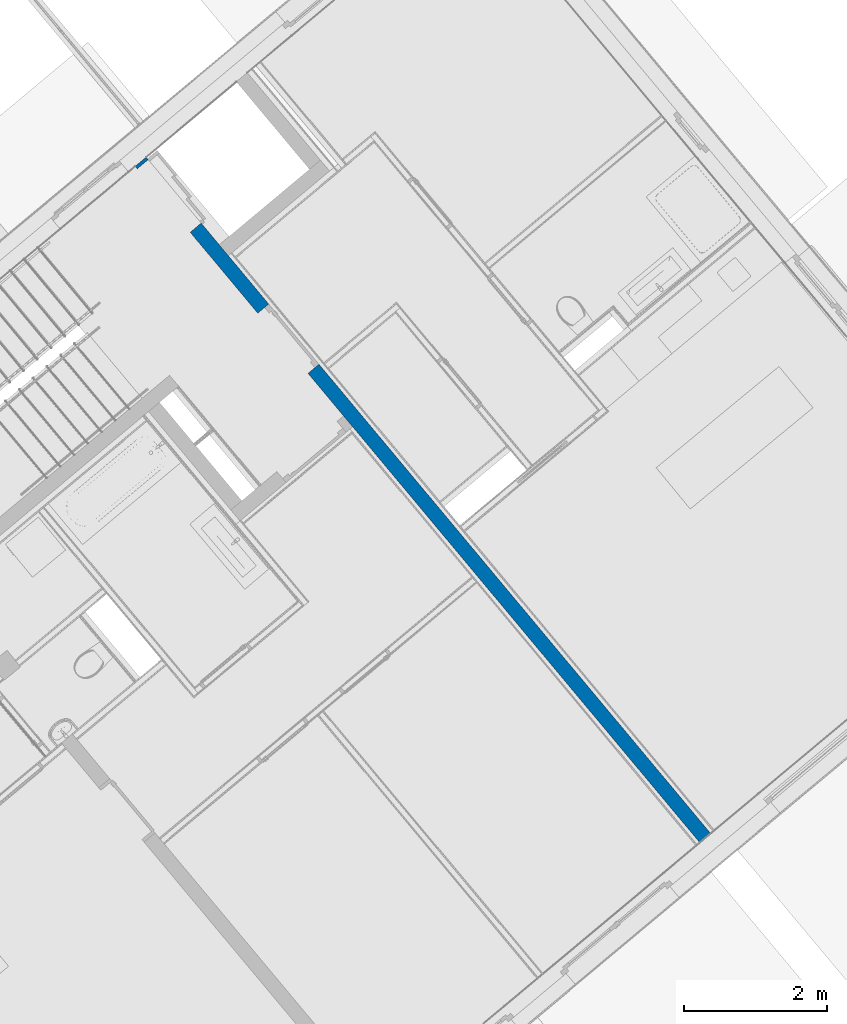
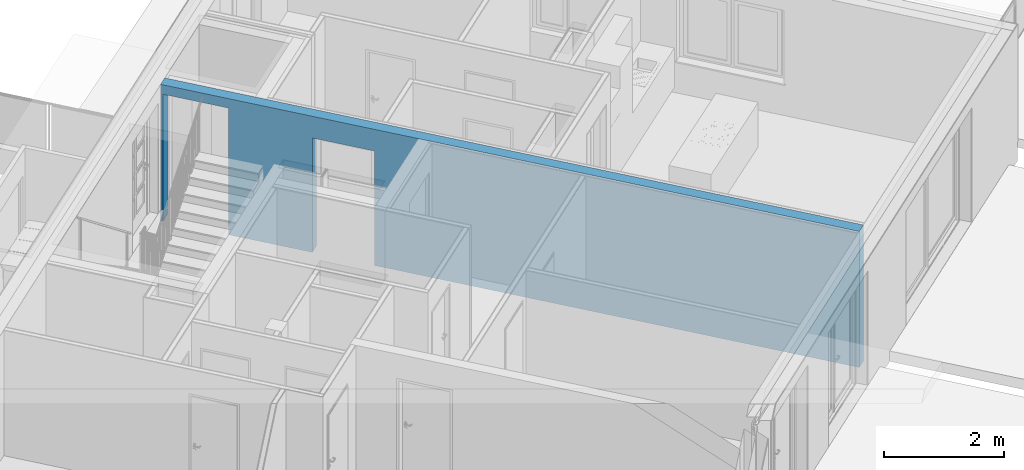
# One storey, part 8 of 75: 1 wall, 2 openings.
"""IFC4 building model written with IfcOpenShell, lengths in metres."""

from ifc_helpers import new_model, entity, si_unit, converted_unit, derived_unit, direction, frame, origin_with_axes, place, context, subcontext, project, spatial, polygons, material, type_object, element, save


model = new_model("IFC4")

# Units and contexts
model_context = context("Model", 3, precision=1e-05, world=origin_with_axes(), true_north=direction((0.0, 1.0)))
body_context = subcontext(model_context, "Body", "Model", "MODEL_VIEW")
ifc_project = project(units=[si_unit("LENGTHUNIT", "METRE"), si_unit("AREAUNIT", "SQUARE_METRE"), si_unit("VOLUMEUNIT", "CUBIC_METRE"), converted_unit("PLANEANGLEUNIT", "DEGREE", entity("IfcPlaneAngleMeasure", 0.0174532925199), si_unit("PLANEANGLEUNIT", "RADIAN"), dimensions=[0, 0, 0, 0, 0, 0, 0]), converted_unit("TIMEUNIT", "Year", entity("IfcTimeMeasure", 31556926.0), si_unit("TIMEUNIT", "SECOND"), dimensions=[0, 0, 1, 0, 0, 0, 0]), si_unit("MASSUNIT", "GRAM", prefix="KILO"), si_unit("THERMODYNAMICTEMPERATUREUNIT", "DEGREE_CELSIUS"), si_unit("LUMINOUSINTENSITYUNIT", "LUMEN"), si_unit("ENERGYUNIT", "JOULE", prefix="MEGA"), derived_unit("THERMALCONDUCTANCEUNIT", [(si_unit("POWERUNIT", "WATT"), 1), (si_unit("LENGTHUNIT", "METRE"), -1), (si_unit("THERMODYNAMICTEMPERATUREUNIT", "KELVIN"), -1)]), derived_unit("SPECIFICHEATCAPACITYUNIT", [(si_unit("ENERGYUNIT", "JOULE"), 1), (si_unit("MASSUNIT", "GRAM", prefix="KILO"), -1), (si_unit("THERMODYNAMICTEMPERATUREUNIT", "KELVIN"), -1)]), derived_unit("MASSDENSITYUNIT", [(si_unit("MASSUNIT", "GRAM", prefix="KILO"), 1), (si_unit("VOLUMEUNIT", "CUBIC_METRE"), -1)])], contexts=[model_context])

# Site, building, storey
site_placement = place(None, frame((-0.00153261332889, -0.00661245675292, 0.0), z_axis=(0.0, 0.0, 1.0), x_axis=(1.0, 0.0, 0.0)))
site = spatial("IfcSite", under=ifc_project, at=site_placement, Name="Gelände", CompositionType="ELEMENT")
building_placement = place(site_placement, origin_with_axes())
building = spatial("IfcBuilding", under=site, at=building_placement, Name="Gebäude", CompositionType="ELEMENT")
storey_placement = place(building_placement, frame((0.0, 0.0, -0.22), z_axis=(0.0, 0.0, 1.0), x_axis=(1.0, 0.0, 0.0)))
storey = spatial("IfcBuildingStorey", under=building, at=storey_placement, Name="EG", CompositionType="ELEMENT", Elevation=-0.22)

# Wall, openings
ifc_material = material(Name="Stahlbeton Wand")
wall_type = type_object("IfcWallType", Name="Stahlbeton Wand 200", PredefinedType="NOTDEFINED")
wall_placement = place(storey_placement, frame((8.26096619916, 16.5219342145, 0.0), z_axis=(0.0, 0.0, 1.0), x_axis=(-0.640845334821, 0.767670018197, 0.0)))
wall = element("IfcWall", 1, at=wall_placement, inside=storey, type_object=wall_type, material=ifc_material, Name="Wand-003", PredefinedType="NOTDEFINED", context=body_context, shape_type="Tessellation", body=[
    polygons([(12.3191850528, 4.58202649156e-08, 2.57), (12.3191850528, 9.38576860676e-09, 0.22), (12.3191850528, 9.38576505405e-09, 0.0), (12.3653297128, 0.0, 0.0), (12.3653297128, 0.0, 2.76), (0.0, 0.0, 2.76), (0.0, 0.0, 0.0), (8.58020969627, 4.58202684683e-08, 0.0), (8.58020969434, 4.58202684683e-08, 0.22), (8.58020969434, 4.5820272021e-08, 2.32), (9.68020969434, 4.58202684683e-08, 2.32), (9.68020969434, 1.84487696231e-08, 0.22), (9.68020969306, 1.84487696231e-08, 0.0), (11.1591850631, 4.1292480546e-10, 0.0), (11.1591850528, 4.1292480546e-10, 0.22), (11.1591850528, 4.58202684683e-08, 2.57), (12.3191850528, 0.2, 2.57), (12.3191850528, 0.2, 0.22), (12.3191850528, 0.2, 0.0), (12.3652348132, 0.2, 0.0), (12.3652348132, 0.2, 2.76), (0.0, 0.2, 2.76), (0.0, 0.2, 0.0), (8.58020969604, 0.2, 0.0), (8.58020969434, 0.2, 0.22), (8.58020969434, 0.075, 0.22), (8.58020969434, 0.2, 2.32), (9.68020969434, 0.2, 2.32), (9.68020969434, 0.2, 0.22), (9.68020969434, 0.075, 0.22), (9.68020969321, 0.2, 0.0), (11.1591850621, 0.2, 0.0), (11.1591850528, 0.2, 0.22), (11.1591850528, 0.2, 2.57)], [[[1, 2, 3, 4, 5, 6, 7, 8, 9, 10, 11, 12, 13, 14, 15, 16]], [[2, 1, 17, 18]], [[2, 18, 19, 3]], [[20, 4, 3, 19]], [[20, 21, 5, 4]], [[21, 22, 6, 5]], [[23, 7, 6, 22]], [[7, 23, 24, 8]], [[8, 24, 25, 26, 9]], [[26, 25, 27, 10, 9]], [[10, 27, 28, 11]], [[11, 28, 29, 30, 12]], [[29, 31, 13, 12, 30]], [[13, 31, 32, 14]], [[33, 15, 14, 32]], [[16, 15, 33, 34]], [[1, 16, 34, 17]], [[34, 33, 32, 31, 29, 28, 27, 25, 24, 23, 22, 21, 20, 19, 18, 17]]], closed=True),
])
opening_1_placement = place(wall_placement, frame((9.13020969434, 0.0, 0.22), z_axis=(0.0, 0.0, 1.0), x_axis=(1.0, 0.0, 0.0)))
element("IfcOpeningElement", 2, at=opening_1_placement, cuts=wall, Name="Tür-001", context=body_context, identifier="Reference", shape_type="Tessellation", body=[
    polygons([(-0.55, 0.075, -0.22), (-0.55, 0.075, 2.1), (-0.55, 6.48838227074, 2.1), (-0.55, 6.48838227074, -0.22), (-0.55, -6.28838227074, -0.22), (-0.55, -6.28838227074, 2.1), (0.55, 0.075, 2.1), (0.55, 6.48838227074, 2.1), (0.55, -6.28838227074, 2.1), (0.55, 6.48838227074, -0.22), (0.55, 0.075, -0.22), (0.55, -6.28838227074, -0.22)], [[[1, 2, 3, 4]], [[2, 1, 5, 6]], [[7, 8, 3, 2, 6, 9]], [[8, 10, 4, 3]], [[1, 4, 10, 11, 12, 5]], [[6, 5, 12, 9]], [[7, 11, 10, 8]], [[11, 7, 9, 12]]], closed=True),
])
opening_2_placement = place(wall_placement, frame((11.7391850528, 0.0, 0.22), z_axis=(0.0, 0.0, 1.0), x_axis=(1.0, 0.0, 0.0)))
element("IfcOpeningElement", 3, at=opening_2_placement, cuts=wall, Name="Tür-003", context=body_context, identifier="Reference", shape_type="Tessellation", body=[
    polygons([(0.58, 6.48838227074, 2.35), (0.58, 6.48838227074, -0.22), (-0.58, 6.48838227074, -0.22), (-0.58, 6.48838227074, 2.35), (0.58, -6.28838227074, 2.35), (0.58, -6.28838227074, -0.22), (-0.58, -6.28838227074, -0.22), (-0.58, -6.28838227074, 2.35)], [[[1, 2, 3, 4]], [[5, 6, 2, 1]], [[6, 7, 3, 2]], [[7, 8, 4, 3]], [[8, 5, 1, 4]], [[7, 6, 5, 8]]], closed=True),
])

save(model, "model.ifc")
